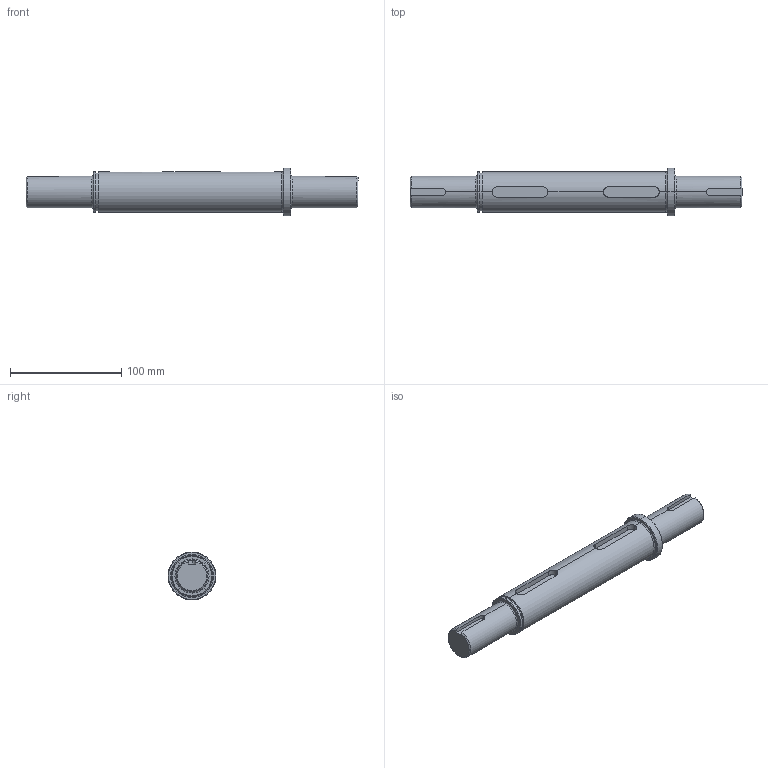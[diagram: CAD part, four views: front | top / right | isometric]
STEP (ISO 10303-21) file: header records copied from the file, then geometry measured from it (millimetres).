
FILE_DESCRIPTION (( 'STEP AP203' ), '1' );
FILE_NAME ('SSHdR237-OPS-DS.STEP', '2023-01-07T03:07:33', ( '' ), ( '' ), 'SwSTEP 2.0', 'SolidWorks 2012', '' );
FILE_SCHEMA (( 'CONFIG_CONTROL_DESIGN' ));
Length unit declared in the file: millimetre
Products named in the file (1): SSHdR237-OPS-DS
Bounding box: 297.9 x 43 x 43 mm (x, y, z)
Volume: 259464.6 mm3; surface area: 35589.2 mm2
Topology: 1 solids, 1 shells, 55 faces, 128 edges, 80 vertices
Faces by surface type: cylinder 21, plane 19, cone 9, torus 6
Entity records: 1829 total; most frequent: CARTESIAN_POINT 480, DIRECTION 278, ORIENTED_EDGE 256, EDGE_CURVE 128, AXIS2_PLACEMENT_3D 110, VERTEX_POINT 80, EDGE_LOOP 60, LINE 58
